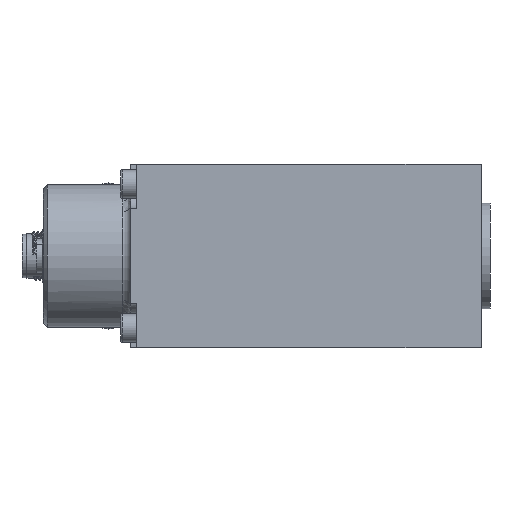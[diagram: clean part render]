
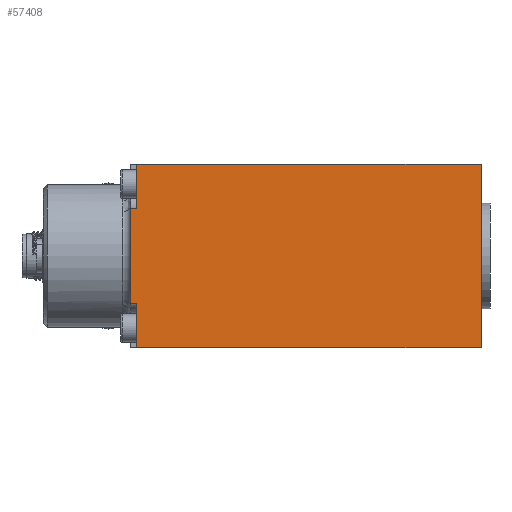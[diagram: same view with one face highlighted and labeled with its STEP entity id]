
A CAD part, front view. The second image highlights one B-rep face of the part: STEP entity #57408.
In plain terms, the highlighted planar face has unit normal (0, -1, 0).
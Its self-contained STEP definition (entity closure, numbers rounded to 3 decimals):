
#945 = CARTESIAN_POINT ( 'NONE',  ( 86., -22.5, -22.5 ) ) ;
#5097 = EDGE_CURVE ( 'NONE', #90904, #21266, #20264, .T. ) ;
#8448 = LINE ( 'NONE', #21584, #78806 ) ;
#8503 = VECTOR ( 'NONE', #83271, 1000. ) ;
#8801 = DIRECTION ( 'NONE',  ( -1., 0., 0. ) ) ;
#10134 = DIRECTION ( 'NONE',  ( 0., 0., -1. ) ) ;
#10212 = CARTESIAN_POINT ( 'NONE',  ( 1.5, -22.5, -11.68 ) ) ;
#10444 = DIRECTION ( 'NONE',  ( 0., 0., 1. ) ) ;
#10540 = AXIS2_PLACEMENT_3D ( 'NONE', #50291, #69210, #14198 ) ;
#10597 = CARTESIAN_POINT ( 'NONE',  ( 1.5, -22.5, -11.68 ) ) ;
#10875 = EDGE_CURVE ( 'NONE', #12338, #90904, #53665, .T. ) ;
#12264 = VECTOR ( 'NONE', #99117, 1000. ) ;
#12338 = VERTEX_POINT ( 'NONE', #35783 ) ;
#12806 = LINE ( 'NONE', #73038, #107769 ) ;
#13302 = VERTEX_POINT ( 'NONE', #83397 ) ;
#14198 = DIRECTION ( 'NONE',  ( 0., 0., 1. ) ) ;
#14871 = EDGE_CURVE ( 'NONE', #21266, #51921, #12806, .T. ) ;
#16799 = CARTESIAN_POINT ( 'NONE',  ( 1.5, -22.5, 22.5 ) ) ;
#19007 = CARTESIAN_POINT ( 'NONE',  ( 1.5, -22.5, 11.68 ) ) ;
#20264 = LINE ( 'NONE', #10212, #66236 ) ;
#20522 = ORIENTED_EDGE ( 'NONE', *, *, #10875, .F. ) ;
#21266 = VERTEX_POINT ( 'NONE', #10597 ) ;
#21485 = LINE ( 'NONE', #25704, #24341 ) ;
#21584 = CARTESIAN_POINT ( 'NONE',  ( 86., -22.5, 22.5 ) ) ;
#22946 = ORIENTED_EDGE ( 'NONE', *, *, #53178, .T. ) ;
#24341 = VECTOR ( 'NONE', #62278, 1000. ) ;
#25123 = ORIENTED_EDGE ( 'NONE', *, *, #5097, .F. ) ;
#25704 = CARTESIAN_POINT ( 'NONE',  ( 1.5, -22.5, 11.68 ) ) ;
#31580 = EDGE_CURVE ( 'NONE', #66488, #96379, #8448, .T. ) ;
#35783 = CARTESIAN_POINT ( 'NONE',  ( 86., -22.5, -22.5 ) ) ;
#37335 = ORIENTED_EDGE ( 'NONE', *, *, #31580, .T. ) ;
#37917 = ORIENTED_EDGE ( 'NONE', *, *, #78124, .T. ) ;
#45024 = EDGE_CURVE ( 'NONE', #117001, #96379, #21485, .T. ) ;
#46628 = DIRECTION ( 'NONE',  ( -1., 0., 0. ) ) ;
#49177 = LINE ( 'NONE', #55861, #70826 ) ;
#50291 = CARTESIAN_POINT ( 'NONE',  ( 86., -22.5, 22.5 ) ) ;
#50708 = PLANE ( 'NONE',  #10540 ) ;
#51381 = CARTESIAN_POINT ( 'NONE',  ( 0., -22.5, -11.68 ) ) ;
#51921 = VERTEX_POINT ( 'NONE', #51381 ) ;
#53178 = EDGE_CURVE ( 'NONE', #117001, #13302, #78859, .T. ) ;
#53665 = LINE ( 'NONE', #945, #96811 ) ;
#55861 = CARTESIAN_POINT ( 'NONE',  ( 0., -22.5, 22.5 ) ) ;
#57408 = ADVANCED_FACE ( 'NONE', ( #89614 ), #50708, .F. ) ;
#61043 = LINE ( 'NONE', #108362, #12264 ) ;
#62278 = DIRECTION ( 'NONE',  ( 0., 0., 1. ) ) ;
#66236 = VECTOR ( 'NONE', #10444, 1000. ) ;
#66488 = VERTEX_POINT ( 'NONE', #107468 ) ;
#69210 = DIRECTION ( 'NONE',  ( 0., 1., 0. ) ) ;
#70826 = VECTOR ( 'NONE', #10134, 1000. ) ;
#73038 = CARTESIAN_POINT ( 'NONE',  ( 1.5, -22.5, -11.68 ) ) ;
#76127 = ORIENTED_EDGE ( 'NONE', *, *, #14871, .F. ) ;
#77125 = EDGE_CURVE ( 'NONE', #66488, #12338, #61043, .T. ) ;
#77980 = ORIENTED_EDGE ( 'NONE', *, *, #77125, .F. ) ;
#78124 = EDGE_CURVE ( 'NONE', #13302, #51921, #49177, .T. ) ;
#78806 = VECTOR ( 'NONE', #85877, 1000. ) ;
#78859 = LINE ( 'NONE', #19007, #8503 ) ;
#79258 = EDGE_LOOP ( 'NONE', ( #114017, #22946, #37917, #76127, #25123, #20522, #77980, #37335 ) ) ;
#83271 = DIRECTION ( 'NONE',  ( -1., 0., 0. ) ) ;
#83397 = CARTESIAN_POINT ( 'NONE',  ( 0., -22.5, 11.68 ) ) ;
#84937 = CARTESIAN_POINT ( 'NONE',  ( 1.5, -22.5, 11.68 ) ) ;
#85877 = DIRECTION ( 'NONE',  ( -1., 0., 0. ) ) ;
#86676 = CARTESIAN_POINT ( 'NONE',  ( 1.5, -22.5, -22.5 ) ) ;
#89614 = FACE_OUTER_BOUND ( 'NONE', #79258, .T. ) ;
#90904 = VERTEX_POINT ( 'NONE', #86676 ) ;
#96379 = VERTEX_POINT ( 'NONE', #16799 ) ;
#96811 = VECTOR ( 'NONE', #46628, 1000. ) ;
#99117 = DIRECTION ( 'NONE',  ( 0., 0., -1. ) ) ;
#107468 = CARTESIAN_POINT ( 'NONE',  ( 86., -22.5, 22.5 ) ) ;
#107769 = VECTOR ( 'NONE', #8801, 1000. ) ;
#108362 = CARTESIAN_POINT ( 'NONE',  ( 86., -22.5, 22.5 ) ) ;
#114017 = ORIENTED_EDGE ( 'NONE', *, *, #45024, .F. ) ;
#117001 = VERTEX_POINT ( 'NONE', #84937 ) ;
